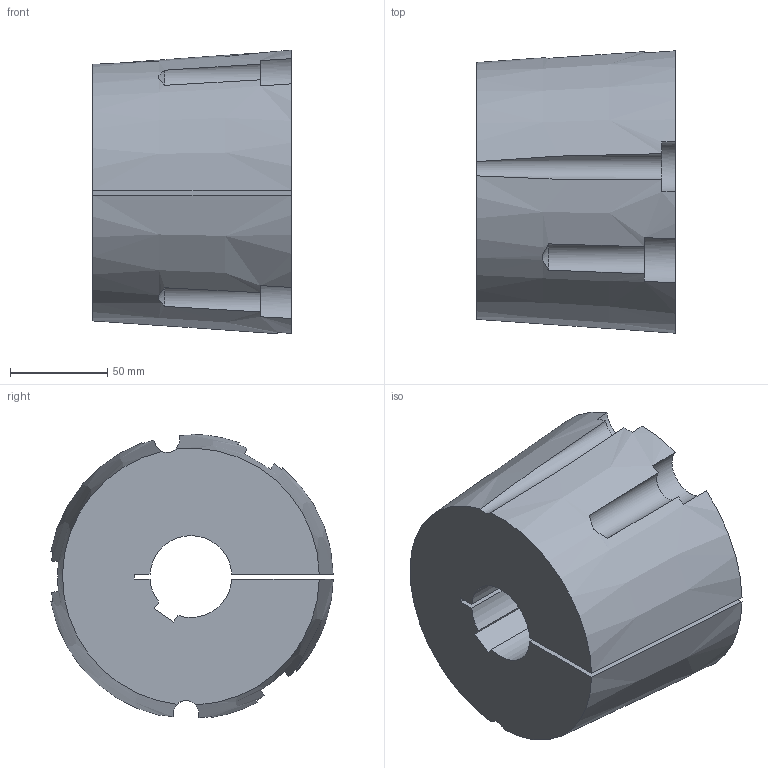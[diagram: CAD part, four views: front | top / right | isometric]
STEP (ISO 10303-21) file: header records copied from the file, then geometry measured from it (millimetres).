
FILE_DESCRIPTION( ( 'STEP AP203' ), '1' );
FILE_NAME( 'D:/export/antriebselemente/spannbuchsen_und_spannsaetze/taper-spannbuchsen_1008_bis_5050/taper-spannbuchsen_62251442Isometric_235.stp', '2018-12-11T11:11:32', ( '' ), ( '' ), ' ', 'PARTsolutions', ' ' );
FILE_SCHEMA( ( 'CONFIG_CONTROL_DESIGN' ) );
Length unit declared in the file: millimetre
Products named in the file (1): _taper-spannbuchsen_62251442
Bounding box: 102 x 144.84 x 145.4 mm (x, y, z)
Volume: 1343201.4 mm3; surface area: 99685.2 mm2
Topology: 1 solids, 1 shells, 34 faces, 96 edges, 64 vertices
Faces by surface type: plane 15, cylinder 13, cone 6
Entity records: 1310 total; most frequent: CARTESIAN_POINT 386, ORIENTED_EDGE 192, DIRECTION 186, EDGE_CURVE 96, AXIS2_PLACEMENT_3D 80, VERTEX_POINT 64, CIRCLE 45, ADVANCED_FACE 34
